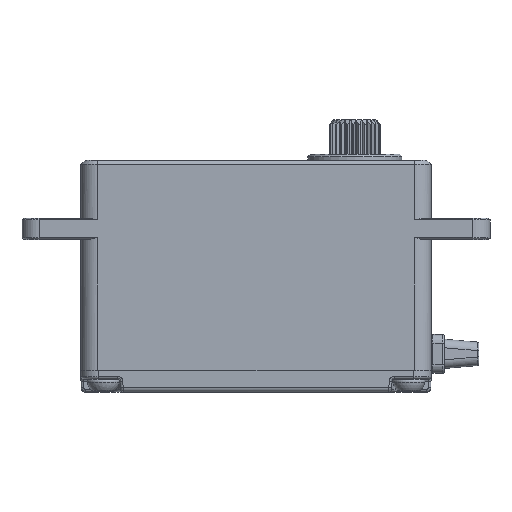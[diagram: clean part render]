
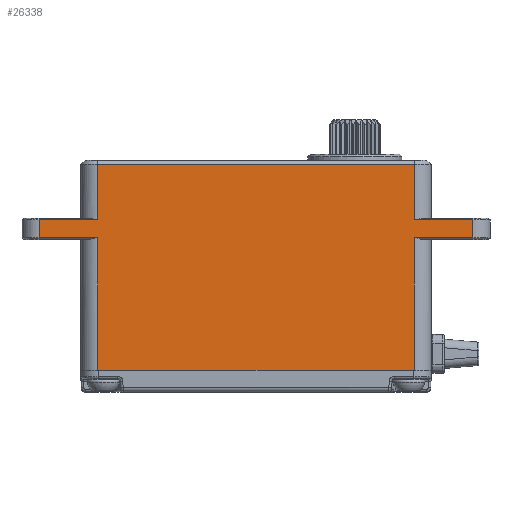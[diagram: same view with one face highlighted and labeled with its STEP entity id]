
A CAD part, top view. The second image highlights one B-rep face of the part: STEP entity #26338.
In plain terms, the highlighted planar face has unit normal (0, 0, 1).
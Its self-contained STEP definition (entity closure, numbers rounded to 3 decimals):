
#4883=DIRECTION('',(0.,1.,0.));
#4884=VECTOR('',#4883,15.45);
#4885=CARTESIAN_POINT('',(-18.4,-12.5,
10.1));
#4886=LINE('',#4885,#4884);
#4890=DIRECTION('',(-1.,0.,0.));
#4891=VECTOR('',#4890,6.85);
#4892=CARTESIAN_POINT('',(-18.4,2.95,10.1));
#4893=LINE('',#4892,#4891);
#4897=DIRECTION('',(0.,-1.,0.));
#4898=VECTOR('',#4897,2.1);
#4899=CARTESIAN_POINT('',(-25.25,5.05,10.1));
#4900=LINE('',#4899,#4898);
#4904=DIRECTION('',(1.,0.,0.));
#4905=VECTOR('',#4904,6.85);
#4906=CARTESIAN_POINT('',(-25.25,5.05,10.1));
#4907=LINE('',#4906,#4905);
#4911=DIRECTION('',(1.,0.,0.));
#4912=VECTOR('',#4911,36.8);
#4913=CARTESIAN_POINT('',(-18.4,11.5,10.1));
#4914=LINE('',#4913,#4912);
#4918=DIRECTION('',(1.,0.,0.));
#4919=VECTOR('',#4918,6.85);
#4920=CARTESIAN_POINT('',(18.4,5.05,10.1));
#4921=LINE('',#4920,#4919);
#4925=DIRECTION('',(0.,1.,0.));
#4926=VECTOR('',#4925,2.1);
#4927=CARTESIAN_POINT('',(25.25,2.95,10.1));
#4928=LINE('',#4927,#4926);
#4932=DIRECTION('',(-1.,0.,0.));
#4933=VECTOR('',#4932,6.85);
#4934=CARTESIAN_POINT('',(25.25,2.95,10.1));
#4935=LINE('',#4934,#4933);
#4939=DIRECTION('',(1.,0.,0.));
#4940=VECTOR('',#4939,36.8);
#4941=CARTESIAN_POINT('',(-18.4,-12.5,
10.1));
#4942=LINE('',#4941,#4940);
#5024=DIRECTION('',(0.,-1.,0.));
#5025=VECTOR('',#5024,6.45);
#5026=CARTESIAN_POINT('',(-18.4,11.5,10.1));
#5027=LINE('',#5026,#5025);
#6315=DIRECTION('',(0.,1.,0.));
#6316=VECTOR('',#6315,15.45);
#6317=CARTESIAN_POINT('',(18.4,-12.5,10.1));
#6318=LINE('',#6317,#6316);
#18550=DIRECTION('',(0.,1.,0.));
#18551=VECTOR('',#18550,6.45);
#18552=CARTESIAN_POINT('',(18.4,5.05,10.1));
#18553=LINE('',#18552,#18551);
#19205=CARTESIAN_POINT('',(18.4,11.5,10.1));
#19207=VERTEX_POINT('',#19205);
#19231=CARTESIAN_POINT('',(-18.4,11.5,10.1));
#19232=VERTEX_POINT('',#19231);
#19241=CARTESIAN_POINT('',(-25.25,5.05,
10.1));
#19242=CARTESIAN_POINT('',(-18.4,5.05,10.1));
#19243=VERTEX_POINT('',#19241);
#19244=VERTEX_POINT('',#19242);
#19411=CARTESIAN_POINT('',(-25.25,2.95,10.1));
#19412=VERTEX_POINT('',#19411);
#19415=CARTESIAN_POINT('',(-18.4,2.95,10.1));
#19416=VERTEX_POINT('',#19415);
#19499=CARTESIAN_POINT('',(25.25,5.05,10.1));
#19500=VERTEX_POINT('',#19499);
#19503=CARTESIAN_POINT('',(18.4,5.05,10.1));
#19504=VERTEX_POINT('',#19503);
#19505=CARTESIAN_POINT('',(25.25,2.95,10.1));
#19506=CARTESIAN_POINT('',(18.4,2.95,10.1));
#19507=VERTEX_POINT('',#19505);
#19508=VERTEX_POINT('',#19506);
#21690=CARTESIAN_POINT('',(-18.4,-12.5,
10.1));
#21691=VERTEX_POINT('',#21690);
#21692=CARTESIAN_POINT('',(18.4,-12.5,
10.1));
#21693=VERTEX_POINT('',#21692);
#26308=CARTESIAN_POINT('',(-20.4,0.,10.1));
#26309=DIRECTION('',(0.,0.,1.));
#26310=DIRECTION('',(1.,0.,0.));
#26311=AXIS2_PLACEMENT_3D('',#26308,#26309,#26310);
#26312=PLANE('',#26311);
#26314=ORIENTED_EDGE('',*,*,#26313,.T.);
#26316=ORIENTED_EDGE('',*,*,#26315,.T.);
#26318=ORIENTED_EDGE('',*,*,#26317,.F.);
#26320=ORIENTED_EDGE('',*,*,#26319,.T.);
#26322=ORIENTED_EDGE('',*,*,#26321,.F.);
#26323=ORIENTED_EDGE('',*,*,#26290,.T.);
#26325=ORIENTED_EDGE('',*,*,#26324,.F.);
#26327=ORIENTED_EDGE('',*,*,#26326,.T.);
#26329=ORIENTED_EDGE('',*,*,#26328,.F.);
#26331=ORIENTED_EDGE('',*,*,#26330,.T.);
#26333=ORIENTED_EDGE('',*,*,#26332,.F.);
#26335=ORIENTED_EDGE('',*,*,#26334,.F.);
#26336=EDGE_LOOP('',(#26314,#26316,#26318,#26320,#26322,#26323,#26325,#26327,
#26329,#26331,#26333,#26335));
#26337=FACE_OUTER_BOUND('',#26336,.F.);
#26290=EDGE_CURVE('',#19232,#19207,#4914,.T.);
#26313=EDGE_CURVE('',#21691,#19416,#4886,.T.);
#26315=EDGE_CURVE('',#19416,#19412,#4893,.T.);
#26317=EDGE_CURVE('',#19243,#19412,#4900,.T.);
#26319=EDGE_CURVE('',#19243,#19244,#4907,.T.);
#26321=EDGE_CURVE('',#19232,#19244,#5027,.T.);
#26324=EDGE_CURVE('',#19504,#19207,#18553,.T.);
#26326=EDGE_CURVE('',#19504,#19500,#4921,.T.);
#26328=EDGE_CURVE('',#19507,#19500,#4928,.T.);
#26330=EDGE_CURVE('',#19507,#19508,#4935,.T.);
#26332=EDGE_CURVE('',#21693,#19508,#6318,.T.);
#26334=EDGE_CURVE('',#21691,#21693,#4942,.T.);
#26338=ADVANCED_FACE('',(#26337),#26312,.T.);
